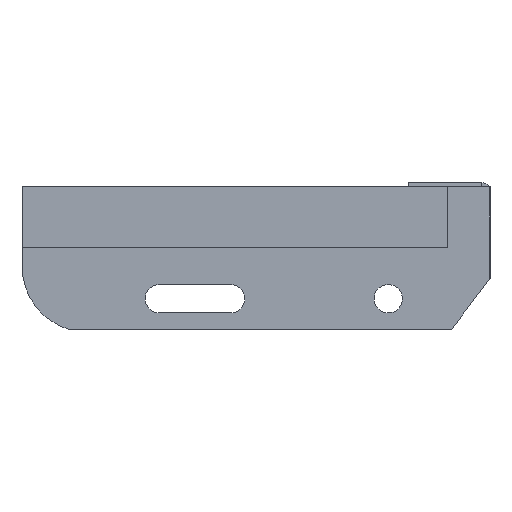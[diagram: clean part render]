
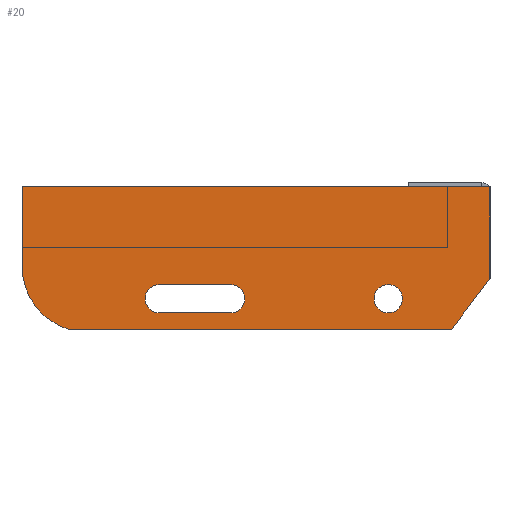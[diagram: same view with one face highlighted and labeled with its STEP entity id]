
A CAD part, left-side view. The second image highlights one B-rep face of the part: STEP entity #20.
In plain terms, the highlighted planar face has unit normal (-1, 0, 0) as drawn and (0, 0, 1) by its records, which use the part's own axes.
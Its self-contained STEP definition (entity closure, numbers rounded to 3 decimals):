
#16 = CARTESIAN_POINT ( 'NONE',  ( -162.5, -62., 3. ) ) ;
#20 = ADVANCED_FACE ( 'NONE', ( #561, #1325, #1829 ), #423, .T. ) ;
#74 = DIRECTION ( 'NONE',  ( 1., 0., 0. ) ) ;
#121 = VERTEX_POINT ( 'NONE', #149 ) ;
#149 = CARTESIAN_POINT ( 'NONE',  ( 0., 0., 3. ) ) ;
#154 = CARTESIAN_POINT ( 'NONE',  ( -50., -55., 3. ) ) ;
#160 = DIRECTION ( 'NONE',  ( 1., 0., 0. ) ) ;
#173 = CARTESIAN_POINT ( 'NONE',  ( 0., -45., 3. ) ) ;
#196 = AXIS2_PLACEMENT_3D ( 'NONE', #154, #778, #1937 ) ;
#201 = CARTESIAN_POINT ( 'NONE',  ( -50., -55., 3. ) ) ;
#227 = AXIS2_PLACEMENT_3D ( 'NONE', #1187, #1362, #74 ) ;
#229 = CARTESIAN_POINT ( 'NONE',  ( -230., 0., 3. ) ) ;
#248 = EDGE_CURVE ( 'NONE', #291, #1493, #1933, .T. ) ;
#261 = ORIENTED_EDGE ( 'NONE', *, *, #1801, .F. ) ;
#262 = DIRECTION ( 'NONE',  ( 0., 1., 0. ) ) ;
#285 = LINE ( 'NONE', #1694, #1993 ) ;
#291 = VERTEX_POINT ( 'NONE', #503 ) ;
#323 = EDGE_CURVE ( 'NONE', #121, #416, #513, .T. ) ;
#326 = VECTOR ( 'NONE', #1970, 1000. ) ;
#327 = ORIENTED_EDGE ( 'NONE', *, *, #1923, .F. ) ;
#333 = DIRECTION ( 'NONE',  ( 0.602, 0.799, 0. ) ) ;
#338 = VERTEX_POINT ( 'NONE', #1446 ) ;
#416 = VERTEX_POINT ( 'NONE', #229 ) ;
#417 = LINE ( 'NONE', #1037, #1966 ) ;
#418 = VERTEX_POINT ( 'NONE', #1479 ) ;
#423 = PLANE ( 'NONE',  #606 ) ;
#425 = CIRCLE ( 'NONE', #196, 7. ) ;
#426 = AXIS2_PLACEMENT_3D ( 'NONE', #1087, #1765, #1434 ) ;
#439 = EDGE_LOOP ( 'NONE', ( #1241, #327 ) ) ;
#440 = DIRECTION ( 'NONE',  ( 0., 0., 1. ) ) ;
#444 = LINE ( 'NONE', #1492, #1272 ) ;
#456 = CIRCLE ( 'NONE', #1865, 7. ) ;
#485 = EDGE_CURVE ( 'NONE', #1493, #501, #1799, .T. ) ;
#501 = VERTEX_POINT ( 'NONE', #1666 ) ;
#503 = CARTESIAN_POINT ( 'NONE',  ( -162.5, -48., 3. ) ) ;
#513 = LINE ( 'NONE', #1616, #790 ) ;
#549 = CARTESIAN_POINT ( 'NONE',  ( -169.5, -55., 3. ) ) ;
#561 = FACE_OUTER_BOUND ( 'NONE', #1428, .T. ) ;
#578 = CARTESIAN_POINT ( 'NONE',  ( -197.5, -39., 3. ) ) ;
#603 = DIRECTION ( 'NONE',  ( 1., 0., 0. ) ) ;
#604 = DIRECTION ( 'NONE',  ( 0., 0., 1. ) ) ;
#606 = AXIS2_PLACEMENT_3D ( 'NONE', #1181, #1682, #727 ) ;
#618 = CARTESIAN_POINT ( 'NONE',  ( -57., -55., 3. ) ) ;
#631 = DIRECTION ( 'NONE',  ( -1., 0., 0. ) ) ;
#657 = EDGE_CURVE ( 'NONE', #338, #291, #285, .T. ) ;
#681 = ORIENTED_EDGE ( 'NONE', *, *, #1129, .T. ) ;
#692 = AXIS2_PLACEMENT_3D ( 'NONE', #201, #604, #1040 ) ;
#727 = DIRECTION ( 'NONE',  ( 1., 0., 0. ) ) ;
#764 = LINE ( 'NONE', #1738, #1044 ) ;
#767 = CARTESIAN_POINT ( 'NONE',  ( -230., 0., 3. ) ) ;
#778 = DIRECTION ( 'NONE',  ( 0., 0., 1. ) ) ;
#790 = VECTOR ( 'NONE', #811, 1000. ) ;
#811 = DIRECTION ( 'NONE',  ( -1., 0., 0. ) ) ;
#813 = ORIENTED_EDGE ( 'NONE', *, *, #1601, .T. ) ;
#854 = CIRCLE ( 'NONE', #692, 7. ) ;
#860 = VERTEX_POINT ( 'NONE', #1785 ) ;
#903 = DIRECTION ( 'NONE',  ( 0., 0., 1. ) ) ;
#944 = CARTESIAN_POINT ( 'NONE',  ( -127.5, -62., 3. ) ) ;
#997 = ORIENTED_EDGE ( 'NONE', *, *, #1145, .F. ) ;
#1037 = CARTESIAN_POINT ( 'NONE',  ( 0., 0., 3. ) ) ;
#1040 = DIRECTION ( 'NONE',  ( 1., 0., 0. ) ) ;
#1044 = VECTOR ( 'NONE', #333, 1000. ) ;
#1066 = DIRECTION ( 'NONE',  ( 1., 0., 0. ) ) ;
#1087 = CARTESIAN_POINT ( 'NONE',  ( -162.5, -55., 3. ) ) ;
#1102 = ORIENTED_EDGE ( 'NONE', *, *, #1624, .T. ) ;
#1129 = EDGE_CURVE ( 'NONE', #416, #860, #1848, .T. ) ;
#1145 = EDGE_CURVE ( 'NONE', #1742, #338, #456, .T. ) ;
#1153 = ORIENTED_EDGE ( 'NONE', *, *, #248, .F. ) ;
#1181 = CARTESIAN_POINT ( 'NONE',  ( -197.5, -39., 3. ) ) ;
#1185 = CARTESIAN_POINT ( 'NONE',  ( -127.5, -55., 3. ) ) ;
#1187 = CARTESIAN_POINT ( 'NONE',  ( -162.5, -55., 3. ) ) ;
#1234 = AXIS2_PLACEMENT_3D ( 'NONE', #578, #903, #1502 ) ;
#1241 = ORIENTED_EDGE ( 'NONE', *, *, #1267, .F. ) ;
#1267 = EDGE_CURVE ( 'NONE', #1806, #418, #425, .T. ) ;
#1272 = VECTOR ( 'NONE', #1066, 1000. ) ;
#1275 = ORIENTED_EDGE ( 'NONE', *, *, #485, .F. ) ;
#1325 = FACE_BOUND ( 'NONE', #439, .T. ) ;
#1327 = VERTEX_POINT ( 'NONE', #1750 ) ;
#1362 = DIRECTION ( 'NONE',  ( 0., 0., 1. ) ) ;
#1393 = LINE ( 'NONE', #16, #1674 ) ;
#1428 = EDGE_LOOP ( 'NONE', ( #1699, #1643, #681, #1102, #813, #1823 ) ) ;
#1434 = DIRECTION ( 'NONE',  ( 1., 0., 0. ) ) ;
#1446 = CARTESIAN_POINT ( 'NONE',  ( -127.5, -48., 3. ) ) ;
#1479 = CARTESIAN_POINT ( 'NONE',  ( -43., -55., 3. ) ) ;
#1491 = VERTEX_POINT ( 'NONE', #1947 ) ;
#1492 = CARTESIAN_POINT ( 'NONE',  ( -18.839, -70., 3. ) ) ;
#1493 = VERTEX_POINT ( 'NONE', #549 ) ;
#1502 = DIRECTION ( 'NONE',  ( 1., 0., 0. ) ) ;
#1549 = EDGE_CURVE ( 'NONE', #1887, #121, #417, .T. ) ;
#1596 = EDGE_LOOP ( 'NONE', ( #261, #1275, #1153, #1769, #997 ) ) ;
#1601 = EDGE_CURVE ( 'NONE', #1327, #1491, #444, .T. ) ;
#1616 = CARTESIAN_POINT ( 'NONE',  ( 0., 0., 3. ) ) ;
#1624 = EDGE_CURVE ( 'NONE', #860, #1327, #1767, .T. ) ;
#1643 = ORIENTED_EDGE ( 'NONE', *, *, #323, .T. ) ;
#1666 = CARTESIAN_POINT ( 'NONE',  ( -162.5, -62., 3. ) ) ;
#1674 = VECTOR ( 'NONE', #160, 1000. ) ;
#1682 = DIRECTION ( 'NONE',  ( 0., 0., 1. ) ) ;
#1694 = CARTESIAN_POINT ( 'NONE',  ( -162.5, -48., 3. ) ) ;
#1699 = ORIENTED_EDGE ( 'NONE', *, *, #1549, .T. ) ;
#1738 = CARTESIAN_POINT ( 'NONE',  ( 0., -45., 3. ) ) ;
#1742 = VERTEX_POINT ( 'NONE', #944 ) ;
#1750 = CARTESIAN_POINT ( 'NONE',  ( -207.26, -70., 3. ) ) ;
#1765 = DIRECTION ( 'NONE',  ( 0., 0., 1. ) ) ;
#1767 = CIRCLE ( 'NONE', #1234, 32.5 ) ;
#1769 = ORIENTED_EDGE ( 'NONE', *, *, #657, .F. ) ;
#1785 = CARTESIAN_POINT ( 'NONE',  ( -230., -39., 3. ) ) ;
#1799 = CIRCLE ( 'NONE', #227, 7. ) ;
#1801 = EDGE_CURVE ( 'NONE', #501, #1742, #1393, .T. ) ;
#1806 = VERTEX_POINT ( 'NONE', #618 ) ;
#1823 = ORIENTED_EDGE ( 'NONE', *, *, #1898, .T. ) ;
#1829 = FACE_BOUND ( 'NONE', #1596, .T. ) ;
#1848 = LINE ( 'NONE', #767, #326 ) ;
#1865 = AXIS2_PLACEMENT_3D ( 'NONE', #1185, #440, #603 ) ;
#1887 = VERTEX_POINT ( 'NONE', #173 ) ;
#1898 = EDGE_CURVE ( 'NONE', #1491, #1887, #764, .T. ) ;
#1923 = EDGE_CURVE ( 'NONE', #418, #1806, #854, .T. ) ;
#1933 = CIRCLE ( 'NONE', #426, 7. ) ;
#1937 = DIRECTION ( 'NONE',  ( 1., 0., 0. ) ) ;
#1947 = CARTESIAN_POINT ( 'NONE',  ( -18.839, -70., 3. ) ) ;
#1966 = VECTOR ( 'NONE', #262, 1000. ) ;
#1970 = DIRECTION ( 'NONE',  ( 0., -1., 0. ) ) ;
#1993 = VECTOR ( 'NONE', #631, 1000. ) ;
